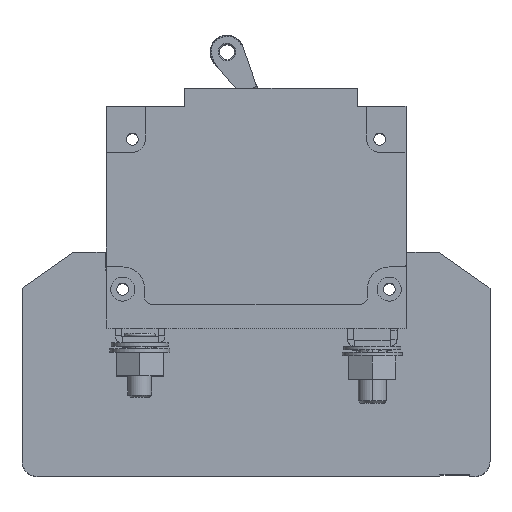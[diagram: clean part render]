
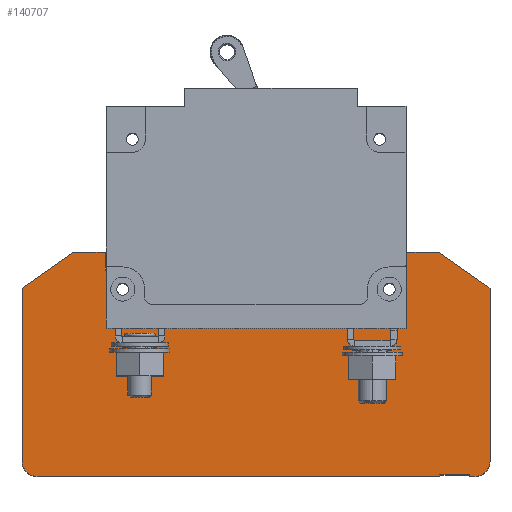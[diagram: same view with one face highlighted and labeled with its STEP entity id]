
A CAD part, top view. The second image highlights one B-rep face of the part: STEP entity #140707.
In plain terms, the highlighted planar face has unit normal (0, 0, 1).
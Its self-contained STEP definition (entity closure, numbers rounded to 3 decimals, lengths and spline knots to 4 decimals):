
#24541=DIRECTION('',(0.,1.,0.));
#24542=VECTOR('',#24541,0.15);
#24543=CARTESIAN_POINT('',(-1.3815,-1.18,-1.086));
#24544=LINE('',#24543,#24542);
#42873=DIRECTION('',(0.,-1.,0.));
#42874=VECTOR('',#42873,0.15);
#42875=CARTESIAN_POINT('',(1.1315,-1.03,-1.086));
#42876=LINE('',#42875,#42874);
#42909=CARTESIAN_POINT('',(1.7,-2.775,-1.086));
#42910=DIRECTION('',(0.,0.,1.));
#42911=DIRECTION('',(0.,-1.,0.));
#42912=AXIS2_PLACEMENT_3D('',#42909,#42910,#42911);
#42943=CARTESIAN_POINT('',(-1.95,-2.775,-1.086));
#42944=DIRECTION('',(0.,0.,1.));
#42945=DIRECTION('',(-1.,0.,0.));
#42946=AXIS2_PLACEMENT_3D('',#42943,#42944,#42945);
#42956=DIRECTION('',(1.,0.,0.));
#42957=VECTOR('',#42956,0.043);
#42958=CARTESIAN_POINT('',(1.657,-2.9,-1.086));
#42959=LINE('',#42958,#42957);
#42960=DIRECTION('',(0.,1.,0.));
#42961=VECTOR('',#42960,0.015);
#42962=CARTESIAN_POINT('',(1.657,-2.9,-1.086));
#42963=LINE('',#42962,#42961);
#42964=DIRECTION('',(-1.,0.,0.));
#42965=VECTOR('',#42964,0.25);
#42966=CARTESIAN_POINT('',(1.657,-2.885,-1.086));
#42967=LINE('',#42966,#42965);
#42968=DIRECTION('',(0.,1.,0.));
#42969=VECTOR('',#42968,0.015);
#42970=CARTESIAN_POINT('',(1.407,-2.9,-1.086));
#42971=LINE('',#42970,#42969);
#42972=DIRECTION('',(1.,0.,0.));
#42973=VECTOR('',#42972,3.357);
#42974=CARTESIAN_POINT('',(-1.95,-2.9,-1.086));
#42975=LINE('',#42974,#42973);
#42976=DIRECTION('',(0.,-1.,0.));
#42977=VECTOR('',#42976,1.445);
#42978=CARTESIAN_POINT('',(-2.075,-1.33,-1.086));
#42979=LINE('',#42978,#42977);
#42980=DIRECTION('',(-0.819,-0.574,0.));
#42981=VECTOR('',#42980,0.523);
#42982=CARTESIAN_POINT('',(-1.6466,-1.03,-1.086));
#42983=LINE('',#42982,#42981);
#42984=DIRECTION('',(-1.,0.,0.));
#42985=VECTOR('',#42984,0.2651);
#42986=CARTESIAN_POINT('',(-1.3815,-1.03,-1.086));
#42987=LINE('',#42986,#42985);
#42988=DIRECTION('',(-1.,0.,0.));
#42989=VECTOR('',#42988,0.1565);
#42990=CARTESIAN_POINT('',(-1.225,-1.18,-1.086));
#42991=LINE('',#42990,#42989);
#42992=DIRECTION('',(0.,1.,0.));
#42993=VECTOR('',#42992,0.088);
#42994=CARTESIAN_POINT('',(-1.065,-1.428,-1.086));
#42995=LINE('',#42994,#42993);
#42996=DIRECTION('',(-1.,0.,0.));
#42997=VECTOR('',#42996,1.756);
#42998=CARTESIAN_POINT('',(0.753,-1.49,-1.086));
#42999=LINE('',#42998,#42997);
#43000=DIRECTION('',(0.,-1.,0.));
#43001=VECTOR('',#43000,0.088);
#43002=CARTESIAN_POINT('',(0.815,-1.34,-1.086));
#43003=LINE('',#43002,#43001);
#43004=DIRECTION('',(-1.,0.,0.));
#43005=VECTOR('',#43004,0.1565);
#43006=CARTESIAN_POINT('',(1.1315,-1.18,-1.086));
#43007=LINE('',#43006,#43005);
#43008=DIRECTION('',(-1.,0.,0.));
#43009=VECTOR('',#43008,0.2651);
#43010=CARTESIAN_POINT('',(1.3966,-1.03,-1.086));
#43011=LINE('',#43010,#43009);
#43012=DIRECTION('',(-0.819,0.574,0.));
#43013=VECTOR('',#43012,0.523);
#43014=CARTESIAN_POINT('',(1.825,-1.33,-1.086));
#43015=LINE('',#43014,#43013);
#43016=DIRECTION('',(0.,1.,0.));
#43017=VECTOR('',#43016,1.445);
#43018=CARTESIAN_POINT('',(1.825,-2.775,-1.086));
#43019=LINE('',#43018,#43017);
#43020=CARTESIAN_POINT('',(0.985,-1.34,-1.086));
#43021=DIRECTION('',(0.,0.,1.));
#43022=DIRECTION('',(1.,0.,0.));
#43023=AXIS2_PLACEMENT_3D('',#43020,#43021,#43022);
#43025=CARTESIAN_POINT('',(0.985,-1.34,-1.086));
#43026=DIRECTION('',(0.,0.,1.));
#43027=DIRECTION('',(-1.,0.,0.));
#43028=AXIS2_PLACEMENT_3D('',#43025,#43026,#43027);
#43030=CARTESIAN_POINT('',(-1.235,-1.34,-1.086));
#43031=DIRECTION('',(0.,0.,1.));
#43032=DIRECTION('',(1.,0.,0.));
#43033=AXIS2_PLACEMENT_3D('',#43030,#43031,#43032);
#43035=CARTESIAN_POINT('',(-1.235,-1.34,-1.086));
#43036=DIRECTION('',(0.,0.,1.));
#43037=DIRECTION('',(-1.,0.,0.));
#43038=AXIS2_PLACEMENT_3D('',#43035,#43036,#43037);
#43044=CARTESIAN_POINT('',(-1.225,-1.34,-1.086));
#43045=DIRECTION('',(0.,0.,1.));
#43046=DIRECTION('',(1.,0.,0.));
#43047=AXIS2_PLACEMENT_3D('',#43044,#43045,#43046);
#43057=CARTESIAN_POINT('',(-1.003,-1.428,-1.086));
#43058=DIRECTION('',(0.,0.,-1.));
#43059=DIRECTION('',(0.,-1.,0.));
#43060=AXIS2_PLACEMENT_3D('',#43057,#43058,#43059);
#43070=CARTESIAN_POINT('',(0.753,-1.428,-1.086));
#43071=DIRECTION('',(0.,0.,-1.));
#43072=DIRECTION('',(1.,0.,0.));
#43073=AXIS2_PLACEMENT_3D('',#43070,#43071,#43072);
#43083=CARTESIAN_POINT('',(0.975,-1.34,-1.086));
#43084=DIRECTION('',(0.,0.,1.));
#43085=DIRECTION('',(0.,1.,0.));
#43086=AXIS2_PLACEMENT_3D('',#43083,#43084,#43085);
#64343=CARTESIAN_POINT('',(0.975,-1.18,-1.086));
#64344=CARTESIAN_POINT('',(0.815,-1.34,-1.086));
#64345=VERTEX_POINT('',#64343);
#64346=VERTEX_POINT('',#64344);
#64347=CARTESIAN_POINT('',(-1.065,-1.34,-1.086));
#64348=CARTESIAN_POINT('',(-1.225,-1.18,-1.086));
#64349=VERTEX_POINT('',#64347);
#64350=VERTEX_POINT('',#64348);
#64351=CARTESIAN_POINT('',(0.753,-1.49,-1.086));
#64352=CARTESIAN_POINT('',(-1.003,-1.49,-1.086));
#64353=VERTEX_POINT('',#64351);
#64354=VERTEX_POINT('',#64352);
#64355=CARTESIAN_POINT('',(0.815,-1.428,-1.086));
#64356=VERTEX_POINT('',#64355);
#64357=CARTESIAN_POINT('',(-1.065,-1.428,-1.086));
#64358=VERTEX_POINT('',#64357);
#64359=CARTESIAN_POINT('',(-1.3815,-1.18,-1.086));
#64360=CARTESIAN_POINT('',(-1.3815,-1.03,-1.086));
#64361=VERTEX_POINT('',#64359);
#64362=VERTEX_POINT('',#64360);
#64369=CARTESIAN_POINT('',(1.1315,-1.03,-1.086));
#64370=CARTESIAN_POINT('',(1.1315,-1.18,-1.086));
#64371=VERTEX_POINT('',#64369);
#64372=VERTEX_POINT('',#64370);
#64379=CARTESIAN_POINT('',(-1.6466,-1.03,-1.086));
#64380=VERTEX_POINT('',#64379);
#64383=CARTESIAN_POINT('',(1.3966,-1.03,-1.086));
#64384=VERTEX_POINT('',#64383);
#64395=CARTESIAN_POINT('',(1.407,-2.9,-1.086));
#64396=CARTESIAN_POINT('',(1.407,-2.885,-1.086));
#64397=VERTEX_POINT('',#64395);
#64398=VERTEX_POINT('',#64396);
#64399=CARTESIAN_POINT('',(1.657,-2.9,-1.086));
#64400=CARTESIAN_POINT('',(1.657,-2.885,-1.086));
#64401=VERTEX_POINT('',#64399);
#64402=VERTEX_POINT('',#64400);
#64403=CARTESIAN_POINT('',(1.825,-2.775,-1.086));
#64405=VERTEX_POINT('',#64403);
#64409=CARTESIAN_POINT('',(1.7,-2.9,-1.086));
#64410=VERTEX_POINT('',#64409);
#64423=CARTESIAN_POINT('',(-1.1375,-1.34,-1.086));
#64424=CARTESIAN_POINT('',(-1.3325,-1.34,-1.086));
#64425=VERTEX_POINT('',#64423);
#64426=VERTEX_POINT('',#64424);
#64455=CARTESIAN_POINT('',(1.0825,-1.34,-1.086));
#64456=CARTESIAN_POINT('',(0.8875,-1.34,-1.086));
#64457=VERTEX_POINT('',#64455);
#64458=VERTEX_POINT('',#64456);
#64475=CARTESIAN_POINT('',(-1.95,-2.9,-1.086));
#64477=VERTEX_POINT('',#64475);
#64481=CARTESIAN_POINT('',(-2.075,-2.775,-1.086));
#64482=VERTEX_POINT('',#64481);
#64487=CARTESIAN_POINT('',(-2.075,-1.33,-1.086));
#64488=VERTEX_POINT('',#64487);
#64489=CARTESIAN_POINT('',(1.825,-1.33,-1.086));
#64490=VERTEX_POINT('',#64489);
#140657=CARTESIAN_POINT('',(-2.075,-2.9,-1.086));
#140658=DIRECTION('',(0.,0.,1.));
#140659=DIRECTION('',(1.,0.,0.));
#140660=AXIS2_PLACEMENT_3D('',#140657,#140658,#140659);
#140661=PLANE('',#140660);
#140662=ORIENTED_EDGE('',*,*,#140524,.F.);
#140663=ORIENTED_EDGE('',*,*,#140538,.F.);
#140664=ORIENTED_EDGE('',*,*,#140551,.T.);
#140665=ORIENTED_EDGE('',*,*,#140565,.T.);
#140666=ORIENTED_EDGE('',*,*,#140579,.F.);
#140667=ORIENTED_EDGE('',*,*,#140592,.F.);
#140668=ORIENTED_EDGE('',*,*,#140608,.F.);
#140669=ORIENTED_EDGE('',*,*,#140622,.F.);
#140670=ORIENTED_EDGE('',*,*,#140635,.F.);
#140671=ORIENTED_EDGE('',*,*,#140648,.F.);
#140672=ORIENTED_EDGE('',*,*,#113242,.F.);
#140673=ORIENTED_EDGE('',*,*,#112984,.F.);
#140675=ORIENTED_EDGE('',*,*,#140674,.F.);
#140677=ORIENTED_EDGE('',*,*,#140676,.F.);
#140679=ORIENTED_EDGE('',*,*,#140678,.F.);
#140681=ORIENTED_EDGE('',*,*,#140680,.F.);
#140683=ORIENTED_EDGE('',*,*,#140682,.F.);
#140685=ORIENTED_EDGE('',*,*,#140684,.F.);
#140687=ORIENTED_EDGE('',*,*,#140686,.F.);
#140688=ORIENTED_EDGE('',*,*,#113054,.F.);
#140689=ORIENTED_EDGE('',*,*,#140462,.F.);
#140690=ORIENTED_EDGE('',*,*,#140481,.F.);
#140691=ORIENTED_EDGE('',*,*,#140495,.F.);
#140692=ORIENTED_EDGE('',*,*,#140508,.F.);
#140693=EDGE_LOOP('',(#140662,#140663,#140664,#140665,#140666,#140667,#140668,
#140669,#140670,#140671,#140672,#140673,#140675,#140677,#140679,#140681,#140683,
#140685,#140687,#140688,#140689,#140690,#140691,#140692));
#140694=FACE_OUTER_BOUND('',#140693,.F.);
#140696=ORIENTED_EDGE('',*,*,#140695,.T.);
#140698=ORIENTED_EDGE('',*,*,#140697,.T.);
#140699=EDGE_LOOP('',(#140696,#140698));
#140700=FACE_BOUND('',#140699,.F.);
#140702=ORIENTED_EDGE('',*,*,#140701,.T.);
#140704=ORIENTED_EDGE('',*,*,#140703,.T.);
#140705=EDGE_LOOP('',(#140702,#140704));
#140706=FACE_BOUND('',#140705,.F.);
#140707=ADVANCED_FACE('',(#140694,#140700,#140706),#140661,.T.);
#42913=CIRCLE('',#42912,0.125);
#42947=CIRCLE('',#42946,0.125);
#43024=CIRCLE('',#43023,0.0975);
#43029=CIRCLE('',#43028,0.0975);
#43034=CIRCLE('',#43033,0.0975);
#43039=CIRCLE('',#43038,0.0975);
#43048=CIRCLE('',#43047,0.16);
#43061=CIRCLE('',#43060,0.062);
#43074=CIRCLE('',#43073,0.062);
#43087=CIRCLE('',#43086,0.16);
#112984=EDGE_CURVE('',#64350,#64361,#42991,.T.);
#113054=EDGE_CURVE('',#64372,#64345,#43007,.T.);
#113242=EDGE_CURVE('',#64361,#64362,#24544,.T.);
#140462=EDGE_CURVE('',#64371,#64372,#42876,.T.);
#140481=EDGE_CURVE('',#64384,#64371,#43011,.T.);
#140495=EDGE_CURVE('',#64490,#64384,#43015,.T.);
#140508=EDGE_CURVE('',#64405,#64490,#43019,.T.);
#140524=EDGE_CURVE('',#64410,#64405,#42913,.T.);
#140538=EDGE_CURVE('',#64401,#64410,#42959,.T.);
#140551=EDGE_CURVE('',#64401,#64402,#42963,.T.);
#140565=EDGE_CURVE('',#64402,#64398,#42967,.T.);
#140579=EDGE_CURVE('',#64397,#64398,#42971,.T.);
#140592=EDGE_CURVE('',#64477,#64397,#42975,.T.);
#140608=EDGE_CURVE('',#64482,#64477,#42947,.T.);
#140622=EDGE_CURVE('',#64488,#64482,#42979,.T.);
#140635=EDGE_CURVE('',#64380,#64488,#42983,.T.);
#140648=EDGE_CURVE('',#64362,#64380,#42987,.T.);
#140674=EDGE_CURVE('',#64349,#64350,#43048,.T.);
#140676=EDGE_CURVE('',#64358,#64349,#42995,.T.);
#140678=EDGE_CURVE('',#64354,#64358,#43061,.T.);
#140680=EDGE_CURVE('',#64353,#64354,#42999,.T.);
#140682=EDGE_CURVE('',#64356,#64353,#43074,.T.);
#140684=EDGE_CURVE('',#64346,#64356,#43003,.T.);
#140686=EDGE_CURVE('',#64345,#64346,#43087,.T.);
#140695=EDGE_CURVE('',#64457,#64458,#43024,.T.);
#140697=EDGE_CURVE('',#64458,#64457,#43029,.T.);
#140701=EDGE_CURVE('',#64425,#64426,#43034,.T.);
#140703=EDGE_CURVE('',#64426,#64425,#43039,.T.);
